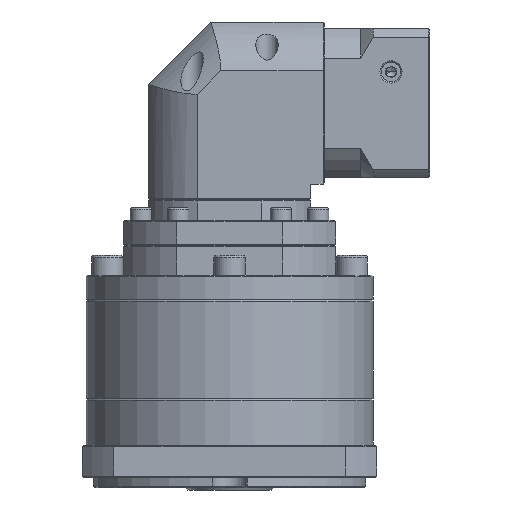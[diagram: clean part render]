
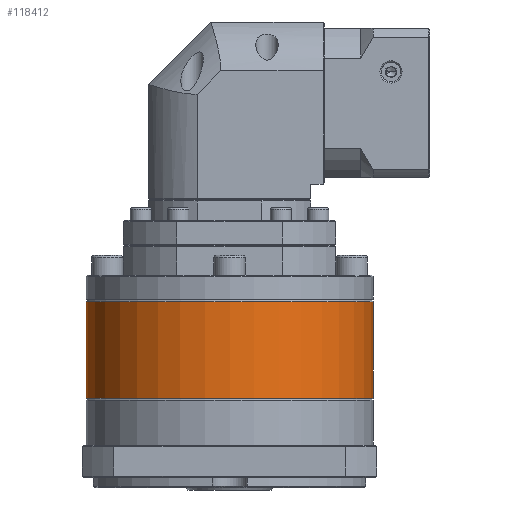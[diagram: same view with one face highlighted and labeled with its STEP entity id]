
A CAD part, front view. The second image highlights one B-rep face of the part: STEP entity #118412.
In plain terms, the highlighted cylindrical face has radius 57.5 mm (diameter 115 mm), a partial arc.
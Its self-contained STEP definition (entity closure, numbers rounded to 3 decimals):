
#2019 = EDGE_CURVE ( 'NONE', #106985, #118694, #126794, .T. ) ;
#5260 = DIRECTION ( 'NONE',  ( 0., 0., -1. ) ) ;
#12875 = CARTESIAN_POINT ( 'NONE',  ( -99.925, 70.078, 118.882 ) ) ;
#17123 = EDGE_CURVE ( 'NONE', #101451, #118694, #38165, .T. ) ;
#17450 = CYLINDRICAL_SURFACE ( 'NONE', #51606, 57.5 ) ;
#22274 = DIRECTION ( 'NONE',  ( 0., 0., 1. ) ) ;
#25110 = ORIENTED_EDGE ( 'NONE', *, *, #17123, .T. ) ;
#27808 = LINE ( 'NONE', #109143, #99686 ) ;
#31114 = CARTESIAN_POINT ( 'NONE',  ( -99.925, 70.078, 158.093 ) ) ;
#32031 = CARTESIAN_POINT ( 'NONE',  ( -157.425, 70.078, 157.593 ) ) ;
#32164 = CARTESIAN_POINT ( 'NONE',  ( -42.425, 70.078, 157.593 ) ) ;
#37308 = CIRCLE ( 'NONE', #51382, 57.5 ) ;
#38165 = CIRCLE ( 'NONE', #100751, 57.5 ) ;
#49419 = ORIENTED_EDGE ( 'NONE', *, *, #2019, .F. ) ;
#50386 = CARTESIAN_POINT ( 'NONE',  ( -42.425, 70.078, 158.093 ) ) ;
#51382 = AXIS2_PLACEMENT_3D ( 'NONE', #85561, #5260, #116347 ) ;
#51606 = AXIS2_PLACEMENT_3D ( 'NONE', #31114, #60561, #123021 ) ;
#55200 = EDGE_CURVE ( 'NONE', #118461, #101451, #27808, .T. ) ;
#58031 = CARTESIAN_POINT ( 'NONE',  ( -157.425, 70.078, 118.882 ) ) ;
#60561 = DIRECTION ( 'NONE',  ( 0., 0., -1. ) ) ;
#70041 = DIRECTION ( 'NONE',  ( 0., 0., -1. ) ) ;
#70994 = EDGE_LOOP ( 'NONE', ( #49419, #113910, #83094, #25110 ) ) ;
#75857 = VECTOR ( 'NONE', #70041, 1000. ) ;
#83094 = ORIENTED_EDGE ( 'NONE', *, *, #55200, .T. ) ;
#85561 = CARTESIAN_POINT ( 'NONE',  ( -99.925, 70.078, 157.593 ) ) ;
#99686 = VECTOR ( 'NONE', #119804, 1000. ) ;
#100751 = AXIS2_PLACEMENT_3D ( 'NONE', #12875, #22274, #125291 ) ;
#101451 = VERTEX_POINT ( 'NONE', #58031 ) ;
#102145 = FACE_OUTER_BOUND ( 'NONE', #70994, .T. ) ;
#106985 = VERTEX_POINT ( 'NONE', #32164 ) ;
#109143 = CARTESIAN_POINT ( 'NONE',  ( -157.425, 70.078, 158.093 ) ) ;
#113910 = ORIENTED_EDGE ( 'NONE', *, *, #127223, .T. ) ;
#116347 = DIRECTION ( 'NONE',  ( -1., 0., 0. ) ) ;
#117292 = CARTESIAN_POINT ( 'NONE',  ( -42.425, 70.078, 118.882 ) ) ;
#118412 = ADVANCED_FACE ( 'NONE', ( #102145 ), #17450, .T. ) ;
#118461 = VERTEX_POINT ( 'NONE', #32031 ) ;
#118694 = VERTEX_POINT ( 'NONE', #117292 ) ;
#119804 = DIRECTION ( 'NONE',  ( 0., 0., -1. ) ) ;
#123021 = DIRECTION ( 'NONE',  ( -1., 0., 0. ) ) ;
#125291 = DIRECTION ( 'NONE',  ( -1., 0., 0. ) ) ;
#126794 = LINE ( 'NONE', #50386, #75857 ) ;
#127223 = EDGE_CURVE ( 'NONE', #106985, #118461, #37308, .T. ) ;
